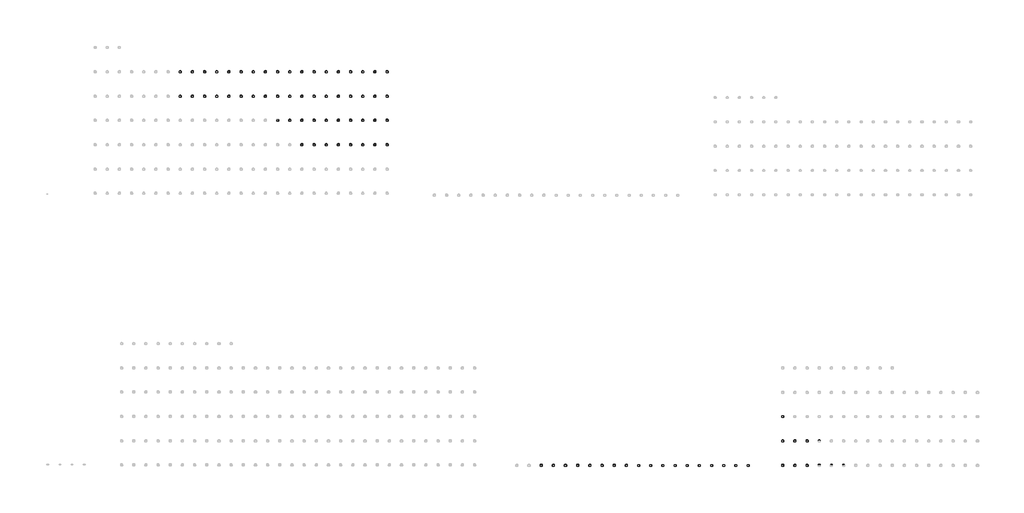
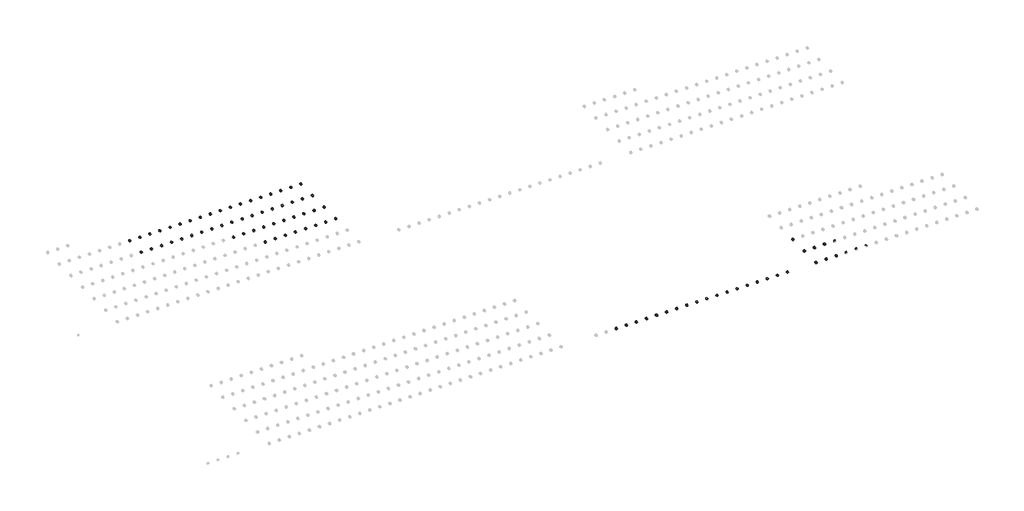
# One storey, part 7 of 18: 79 cable carrier fittings, 72 proxies.
"""IFC4 building model written with IfcOpenShell, lengths in millimetres."""

from ifc_helpers import new_model, si_unit, origin, place, context, project, spatial, transform, mapped, element, save
from components import electrical_fixtures_6e0d8de4, electrical_fixtures_7a809f7f, electrical_fixtures_fe53b4b8, electrical_fixtures_18ec57b5, electrical_fixtures_af1ea3f6, electrical_fixtures_23d46810, electrical_fixtures_6e65c7f1, cable_carrier_fitting_a64d4eba

model = new_model("IFC4")

# Units and contexts
model_context = context("Model", 3, world=origin())
ifc_project = project(units=[si_unit("LENGTHUNIT", "METRE", prefix="MILLI")], contexts=[model_context])

# Site, building, storey
site = spatial("IfcSite", under=ifc_project)
building = spatial("IfcBuilding", under=site)
storey = spatial("IfcBuildingStorey", under=building, Name="Этаж 01", Elevation=0.0)

# Proxies
placement = place(None, origin())
electrical_fixtures_shape = electrical_fixtures_6e0d8de4(model_context)
element("IfcBuildingElementProxy", 1, Name="IEK_Brite_Механизм подсветки, вывод кабеля : ВК_МВ10-БрГ", ObjectType="IEK_Brite_Механизм подсветки, вывод кабеля : ВК_МВ10-БрГ", at=placement, inside=storey, context=model_context, shape_type="MappedRepresentation", body=[
    mapped(electrical_fixtures_shape, transform((32051.7869327, -17805.0, 0.0), x_axis=(1.0, 0.0, 0.0), y_axis=(0.0, 1.0, 0.0), z_axis=(0.0, 0.0, 1.0))),
])
element("IfcBuildingElementProxy", 2, Name="IEK_Brite_Механизм подсветки, вывод кабеля : ВК_МВ10-БрЖ", ObjectType="IEK_Brite_Механизм подсветки, вывод кабеля : ВК_МВ10-БрЖ", at=placement, inside=storey, context=model_context, shape_type="MappedRepresentation", body=[
    mapped(electrical_fixtures_shape, transform((32451.7869327, -17805.0, 0.0), x_axis=(1.0, 0.0, 0.0), y_axis=(0.0, 1.0, 0.0), z_axis=(0.0, 0.0, 1.0))),
])
element("IfcBuildingElementProxy", 3, Name="IEK_Brite_Механизм подсветки, вывод кабеля : ВК_МВ10-БрКр", ObjectType="IEK_Brite_Механизм подсветки, вывод кабеля : ВК_МВ10-БрКр", at=placement, inside=storey, context=model_context, shape_type="MappedRepresentation", body=[
    mapped(electrical_fixtures_shape, transform((32851.7869327, -17805.0, 0.0), x_axis=(1.0, 0.0, 0.0), y_axis=(0.0, 1.0, 0.0), z_axis=(0.0, 0.0, 1.0))),
])
element("IfcBuildingElementProxy", 4, Name="IEK_Brite_Механизм подсветки, вывод кабеля : ВК_МВ10-БрМ", ObjectType="IEK_Brite_Механизм подсветки, вывод кабеля : ВК_МВ10-БрМ", at=placement, inside=storey, context=model_context, shape_type="MappedRepresentation", body=[
    mapped(electrical_fixtures_shape, transform((33251.7869327, -17805.0, 0.0), x_axis=(1.0, 0.0, 0.0), y_axis=(0.0, 1.0, 0.0), z_axis=(0.0, 0.0, 1.0))),
])
element("IfcBuildingElementProxy", 5, Name="IEK_Brite_Механизм подсветки, вывод кабеля : ВК_МВ10-БрС", ObjectType="IEK_Brite_Механизм подсветки, вывод кабеля : ВК_МВ10-БрС", at=placement, inside=storey, context=model_context, shape_type="MappedRepresentation", body=[
    mapped(electrical_fixtures_shape, transform((33651.7869327, -17805.0, 0.0), x_axis=(1.0, 0.0, 0.0), y_axis=(0.0, 1.0, 0.0), z_axis=(0.0, 0.0, 1.0))),
])
element("IfcBuildingElementProxy", 6, Name="IEK_Brite_Механизм подсветки, вывод кабеля : ВК_МВ10-БрТБ", ObjectType="IEK_Brite_Механизм подсветки, вывод кабеля : ВК_МВ10-БрТБ", at=placement, inside=storey, context=model_context, shape_type="MappedRepresentation", body=[
    mapped(electrical_fixtures_shape, transform((34051.7869327, -17805.0, 0.0), x_axis=(1.0, 0.0, 0.0), y_axis=(0.0, 1.0, 0.0), z_axis=(0.0, 0.0, 1.0))),
])
element("IfcBuildingElementProxy", 7, Name="IEK_Brite_Механизм подсветки, вывод кабеля : ВК_МВ10-БрЧ", ObjectType="IEK_Brite_Механизм подсветки, вывод кабеля : ВК_МВ10-БрЧ", at=placement, inside=storey, context=model_context, shape_type="MappedRepresentation", body=[
    mapped(electrical_fixtures_shape, transform((34451.7869327, -17805.0, 0.0), x_axis=(1.0, 0.0, 0.0), y_axis=(0.0, 1.0, 0.0), z_axis=(0.0, 0.0, 1.0))),
])
element("IfcBuildingElementProxy", 8, Name="IEK_Brite_Механизм подсветки, вывод кабеля : ВК_МВ10-БрШ", ObjectType="IEK_Brite_Механизм подсветки, вывод кабеля : ВК_МВ10-БрШ", at=placement, inside=storey, context=model_context, shape_type="MappedRepresentation", body=[
    mapped(electrical_fixtures_shape, transform((34851.7869327, -17805.0, 0.0), x_axis=(1.0, 0.0, 0.0), y_axis=(0.0, 1.0, 0.0), z_axis=(0.0, 0.0, 1.0))),
])
electrical_fixtures_2_shape = electrical_fixtures_7a809f7f(model_context)
element("IfcBuildingElementProxy", 9, Name="IEK_Brite_Механизм розетки 230В : 230 В_РС10-1-0-БрБ", ObjectType="IEK_Brite_Механизм розетки 230В : 230 В_РС10-1-0-БрБ", at=placement, inside=storey, context=model_context, shape_type="MappedRepresentation", body=[
    mapped(electrical_fixtures_2_shape, transform((39990.6847594, -17805.0, 0.0), x_axis=(1.0, 0.0, 0.0), y_axis=(0.0, 1.0, 0.0), z_axis=(0.0, 0.0, 1.0))),
])
element("IfcBuildingElementProxy", 10, Name="IEK_Brite_Механизм розетки 230В : 230 В_РС10-1-0-БрЧ", ObjectType="IEK_Brite_Механизм розетки 230В : 230 В_РС10-1-0-БрЧ", at=placement, inside=storey, context=model_context, shape_type="MappedRepresentation", body=[
    mapped(electrical_fixtures_2_shape, transform((40390.6847594, -17805.0, 0.0), x_axis=(1.0, 0.0, 0.0), y_axis=(0.0, 1.0, 0.0), z_axis=(0.0, 0.0, 1.0))),
])
element("IfcBuildingElementProxy", 11, Name="IEK_Brite_Механизм розетки 230В : 230 В_РС10-1-0-БрКр", ObjectType="IEK_Brite_Механизм розетки 230В : 230 В_РС10-1-0-БрКр", at=placement, inside=storey, context=model_context, shape_type="MappedRepresentation", body=[
    mapped(electrical_fixtures_2_shape, transform((40790.6847594, -17805.0, 0.0), x_axis=(1.0, 0.0, 0.0), y_axis=(0.0, 1.0, 0.0), z_axis=(0.0, 0.0, 1.0))),
])
element("IfcBuildingElementProxy", 12, Name="IEK_Brite_Механизм розетки 230В : 230 В_РС10-1-0-БрЖ", ObjectType="IEK_Brite_Механизм розетки 230В : 230 В_РС10-1-0-БрЖ", at=placement, inside=storey, context=model_context, shape_type="MappedRepresentation", body=[
    mapped(electrical_fixtures_2_shape, transform((41190.6847594, -17805.0, 0.0), x_axis=(1.0, 0.0, 0.0), y_axis=(0.0, 1.0, 0.0), z_axis=(0.0, 0.0, 1.0))),
])
element("IfcBuildingElementProxy", 13, Name="IEK_Brite_Механизм розетки 230В : 230 В_РС10-1-0-БрШ", ObjectType="IEK_Brite_Механизм розетки 230В : 230 В_РС10-1-0-БрШ", at=placement, inside=storey, context=model_context, shape_type="MappedRepresentation", body=[
    mapped(electrical_fixtures_2_shape, transform((41590.6847594, -17805.0, 0.0), x_axis=(1.0, 0.0, 0.0), y_axis=(0.0, 1.0, 0.0), z_axis=(0.0, 0.0, 1.0))),
])
element("IfcBuildingElementProxy", 14, Name="IEK_Brite_Механизм розетки 230В : 230 В_РС10-1-0-БрА", ObjectType="IEK_Brite_Механизм розетки 230В : 230 В_РС10-1-0-БрА", at=placement, inside=storey, context=model_context, shape_type="MappedRepresentation", body=[
    mapped(electrical_fixtures_2_shape, transform((41990.6847594, -17805.0, 0.0), x_axis=(1.0, 0.0, 0.0), y_axis=(0.0, 1.0, 0.0), z_axis=(0.0, 0.0, 1.0))),
])
element("IfcBuildingElementProxy", 15, Name="IEK_Brite_Механизм розетки 230В : 230 В шт._РСш10-2-БрА", ObjectType="IEK_Brite_Механизм розетки 230В : 230 В шт._РСш10-2-БрА", at=placement, inside=storey, context=model_context, shape_type="MappedRepresentation", body=[
    mapped(electrical_fixtures_2_shape, transform((39990.6847594, -17005.0, 0.0), x_axis=(1.0, 0.0, 0.0), y_axis=(0.0, 1.0, 0.0), z_axis=(0.0, 0.0, 1.0))),
])
element("IfcBuildingElementProxy", 16, Name="IEK_Brite_Механизм розетки 230В : 230 В шт._РСш10-2-БрС", ObjectType="IEK_Brite_Механизм розетки 230В : 230 В шт._РСш10-2-БрС", at=placement, inside=storey, context=model_context, shape_type="MappedRepresentation", body=[
    mapped(electrical_fixtures_2_shape, transform((40390.6847594, -17005.0, 0.0), x_axis=(1.0, 0.0, 0.0), y_axis=(0.0, 1.0, 0.0), z_axis=(0.0, 0.0, 1.0))),
])
element("IfcBuildingElementProxy", 17, Name="IEK_Brite_Механизм розетки 230В : 230 В шт._РСш10-2-БрГ", ObjectType="IEK_Brite_Механизм розетки 230В : 230 В шт._РСш10-2-БрГ", at=placement, inside=storey, context=model_context, shape_type="MappedRepresentation", body=[
    mapped(electrical_fixtures_2_shape, transform((40790.6847594, -17005.0, 0.0), x_axis=(1.0, 0.0, 0.0), y_axis=(0.0, 1.0, 0.0), z_axis=(0.0, 0.0, 1.0))),
])
element("IfcBuildingElementProxy", 18, Name="IEK_Brite_Механизм розетки 230В : 230 В шт._РСш10-2-БрМ", ObjectType="IEK_Brite_Механизм розетки 230В : 230 В шт._РСш10-2-БрМ", at=placement, inside=storey, context=model_context, shape_type="MappedRepresentation", body=[
    mapped(electrical_fixtures_2_shape, transform((41190.6847594, -17005.0, 0.0), x_axis=(1.0, 0.0, 0.0), y_axis=(0.0, 1.0, 0.0), z_axis=(0.0, 0.0, 1.0))),
])
electrical_fixtures_3_shape = electrical_fixtures_fe53b4b8(model_context)
element("IfcBuildingElementProxy", 19, Name="IEK_Brite_Механизм розетки 230В : 230 В PE+шт. USB A+A_РЮш10-2-БрБ", ObjectType="IEK_Brite_Механизм розетки 230В : 230 В PE+шт. USB A+A_РЮш10-2-БрБ", at=placement, inside=storey, context=model_context, shape_type="MappedRepresentation", body=[
    mapped(electrical_fixtures_3_shape, transform((39990.6847594, -16205.0, 0.0), x_axis=(1.0, 0.0, 0.0), y_axis=(0.0, 1.0, 0.0), z_axis=(0.0, 0.0, 1.0))),
])
electrical_fixtures_4_shape = electrical_fixtures_18ec57b5(model_context)
element("IfcBuildingElementProxy", 20, Name="IEK_Skandy_Механизм выключателя : В2_SK-V04Bl", ObjectType="IEK_Skandy_Механизм выключателя : В2_SK-V04Bl", at=placement, inside=storey, context=model_context, shape_type="MappedRepresentation", body=[
    mapped(electrical_fixtures_4_shape, transform((24188.7290788, -7260.0, 0.0), x_axis=(1.0, 0.0, 0.0), y_axis=(0.0, 1.0, 0.0), z_axis=(0.0, 0.0, 1.0))),
])
element("IfcBuildingElementProxy", 21, Name="IEK_Skandy_Механизм выключателя : В2_SK-V04G", ObjectType="IEK_Skandy_Механизм выключателя : В2_SK-V04G", at=placement, inside=storey, context=model_context, shape_type="MappedRepresentation", body=[
    mapped(electrical_fixtures_4_shape, transform((24588.7290788, -7260.0, 0.0), x_axis=(1.0, 0.0, 0.0), y_axis=(0.0, 1.0, 0.0), z_axis=(0.0, 0.0, 1.0))),
])
element("IfcBuildingElementProxy", 22, Name="IEK_Skandy_Механизм выключателя : В2_SK-V04Gr", ObjectType="IEK_Skandy_Механизм выключателя : В2_SK-V04Gr", at=placement, inside=storey, context=model_context, shape_type="MappedRepresentation", body=[
    mapped(electrical_fixtures_4_shape, transform((24988.7290788, -7260.0, 0.0), x_axis=(1.0, 0.0, 0.0), y_axis=(0.0, 1.0, 0.0), z_axis=(0.0, 0.0, 1.0))),
])
element("IfcBuildingElementProxy", 23, Name="IEK_Skandy_Механизм выключателя : В2_SK-V04M", ObjectType="IEK_Skandy_Механизм выключателя : В2_SK-V04M", at=placement, inside=storey, context=model_context, shape_type="MappedRepresentation", body=[
    mapped(electrical_fixtures_4_shape, transform((25388.7290788, -7260.0, 0.0), x_axis=(1.0, 0.0, 0.0), y_axis=(0.0, 1.0, 0.0), z_axis=(0.0, 0.0, 1.0))),
])
element("IfcBuildingElementProxy", 24, Name="IEK_Skandy_Механизм выключателя : В2_SK-V04N", ObjectType="IEK_Skandy_Механизм выключателя : В2_SK-V04N", at=placement, inside=storey, context=model_context, shape_type="MappedRepresentation", body=[
    mapped(electrical_fixtures_4_shape, transform((25788.7290788, -7260.0, 0.0), x_axis=(1.0, 0.0, 0.0), y_axis=(0.0, 1.0, 0.0), z_axis=(0.0, 0.0, 1.0))),
])
element("IfcBuildingElementProxy", 25, Name="IEK_Skandy_Механизм выключателя : В2_SK-V04S", ObjectType="IEK_Skandy_Механизм выключателя : В2_SK-V04S", at=placement, inside=storey, context=model_context, shape_type="MappedRepresentation", body=[
    mapped(electrical_fixtures_4_shape, transform((26188.7290788, -7260.0, 0.0), x_axis=(1.0, 0.0, 0.0), y_axis=(0.0, 1.0, 0.0), z_axis=(0.0, 0.0, 1.0))),
])
element("IfcBuildingElementProxy", 26, Name="IEK_Skandy_Механизм выключателя : В2_SK-V04Sa", ObjectType="IEK_Skandy_Механизм выключателя : В2_SK-V04Sa", at=placement, inside=storey, context=model_context, shape_type="MappedRepresentation", body=[
    mapped(electrical_fixtures_4_shape, transform((26588.7290788, -7260.0, 0.0), x_axis=(1.0, 0.0, 0.0), y_axis=(0.0, 1.0, 0.0), z_axis=(0.0, 0.0, 1.0))),
])
element("IfcBuildingElementProxy", 27, Name="IEK_Skandy_Механизм выключателя : В2_SK-V04Sh", ObjectType="IEK_Skandy_Механизм выключателя : В2_SK-V04Sh", at=placement, inside=storey, context=model_context, shape_type="MappedRepresentation", body=[
    mapped(electrical_fixtures_4_shape, transform((26988.7290788, -7260.0, 0.0), x_axis=(1.0, 0.0, 0.0), y_axis=(0.0, 1.0, 0.0), z_axis=(0.0, 0.0, 1.0))),
])
element("IfcBuildingElementProxy", 28, Name="IEK_Skandy_Механизм выключателя : ВПр2_SK-V05Gr", ObjectType="IEK_Skandy_Механизм выключателя : ВПр2_SK-V05Gr", at=placement, inside=storey, context=model_context, shape_type="MappedRepresentation", body=[
    mapped(electrical_fixtures_4_shape, transform((23788.7290788, -6460.0, 0.0), x_axis=(1.0, 0.0, 0.0), y_axis=(0.0, 1.0, 0.0), z_axis=(0.0, 0.0, 1.0))),
])
element("IfcBuildingElementProxy", 29, Name="IEK_Skandy_Механизм выключателя : ВПр2_SK-V05M", ObjectType="IEK_Skandy_Механизм выключателя : ВПр2_SK-V05M", at=placement, inside=storey, context=model_context, shape_type="MappedRepresentation", body=[
    mapped(electrical_fixtures_4_shape, transform((24188.7290788, -6460.0, 0.0), x_axis=(1.0, 0.0, 0.0), y_axis=(0.0, 1.0, 0.0), z_axis=(0.0, 0.0, 1.0))),
])
element("IfcBuildingElementProxy", 30, Name="IEK_Skandy_Механизм выключателя : ВПр2_SK-V05N", ObjectType="IEK_Skandy_Механизм выключателя : ВПр2_SK-V05N", at=placement, inside=storey, context=model_context, shape_type="MappedRepresentation", body=[
    mapped(electrical_fixtures_4_shape, transform((24588.7290788, -6460.0, 0.0), x_axis=(1.0, 0.0, 0.0), y_axis=(0.0, 1.0, 0.0), z_axis=(0.0, 0.0, 1.0))),
])
element("IfcBuildingElementProxy", 31, Name="IEK_Skandy_Механизм выключателя : ВПр2_SK-V05S", ObjectType="IEK_Skandy_Механизм выключателя : ВПр2_SK-V05S", at=placement, inside=storey, context=model_context, shape_type="MappedRepresentation", body=[
    mapped(electrical_fixtures_4_shape, transform((24988.7290788, -6460.0, 0.0), x_axis=(1.0, 0.0, 0.0), y_axis=(0.0, 1.0, 0.0), z_axis=(0.0, 0.0, 1.0))),
])
element("IfcBuildingElementProxy", 32, Name="IEK_Skandy_Механизм выключателя : ВПр2_SK-V05Sa", ObjectType="IEK_Skandy_Механизм выключателя : ВПр2_SK-V05Sa", at=placement, inside=storey, context=model_context, shape_type="MappedRepresentation", body=[
    mapped(electrical_fixtures_4_shape, transform((25388.7290788, -6460.0, 0.0), x_axis=(1.0, 0.0, 0.0), y_axis=(0.0, 1.0, 0.0), z_axis=(0.0, 0.0, 1.0))),
])
element("IfcBuildingElementProxy", 33, Name="IEK_Skandy_Механизм выключателя : ВПр2_SK-V05Sh", ObjectType="IEK_Skandy_Механизм выключателя : ВПр2_SK-V05Sh", at=placement, inside=storey, context=model_context, shape_type="MappedRepresentation", body=[
    mapped(electrical_fixtures_4_shape, transform((25788.7290788, -6460.0, 0.0), x_axis=(1.0, 0.0, 0.0), y_axis=(0.0, 1.0, 0.0), z_axis=(0.0, 0.0, 1.0))),
])
element("IfcBuildingElementProxy", 34, Name="IEK_Skandy_Механизм выключателя : ВПр2_SK-V05T", ObjectType="IEK_Skandy_Механизм выключателя : ВПр2_SK-V05T", at=placement, inside=storey, context=model_context, shape_type="MappedRepresentation", body=[
    mapped(electrical_fixtures_4_shape, transform((26188.7290788, -6460.0, 0.0), x_axis=(1.0, 0.0, 0.0), y_axis=(0.0, 1.0, 0.0), z_axis=(0.0, 0.0, 1.0))),
])
element("IfcBuildingElementProxy", 35, Name="IEK_Skandy_Механизм выключателя : ВПр2_SK-V05W", ObjectType="IEK_Skandy_Механизм выключателя : ВПр2_SK-V05W", at=placement, inside=storey, context=model_context, shape_type="MappedRepresentation", body=[
    mapped(electrical_fixtures_4_shape, transform((26588.7290788, -6460.0, 0.0), x_axis=(1.0, 0.0, 0.0), y_axis=(0.0, 1.0, 0.0), z_axis=(0.0, 0.0, 1.0))),
])
electrical_fixtures_5_shape = electrical_fixtures_af1ea3f6(model_context)
element("IfcBuildingElementProxy", 36, Name="IEK_Skandy_Механизм выключателя : ВПр2 И_SK-V10B", ObjectType="IEK_Skandy_Механизм выключателя : ВПр2 И_SK-V10B", at=placement, inside=storey, context=model_context, shape_type="MappedRepresentation", body=[
    mapped(electrical_fixtures_5_shape, transform((26988.7290788, -6460.0, 0.0), x_axis=(1.0, 0.0, 0.0), y_axis=(0.0, 1.0, 0.0), z_axis=(0.0, 0.0, 1.0))),
])
element("IfcBuildingElementProxy", 37, Name="IEK_Skandy_Механизм выключателя : ВПр2 И_SK-V10Sh", ObjectType="IEK_Skandy_Механизм выключателя : ВПр2 И_SK-V10Sh", at=placement, inside=storey, context=model_context, shape_type="MappedRepresentation", body=[
    mapped(electrical_fixtures_5_shape, transform((20188.7290788, -5660.0, 0.0), x_axis=(1.0, 0.0, 0.0), y_axis=(0.0, 1.0, 0.0), z_axis=(0.0, 0.0, 1.0))),
])
element("IfcBuildingElementProxy", 38, Name="IEK_Skandy_Механизм выключателя : ВПр2 И_SK-V10T", ObjectType="IEK_Skandy_Механизм выключателя : ВПр2 И_SK-V10T", at=placement, inside=storey, context=model_context, shape_type="MappedRepresentation", body=[
    mapped(electrical_fixtures_5_shape, transform((20588.7290788, -5660.0, 0.0), x_axis=(1.0, 0.0, 0.0), y_axis=(0.0, 1.0, 0.0), z_axis=(0.0, 0.0, 1.0))),
])
element("IfcBuildingElementProxy", 39, Name="IEK_Skandy_Механизм выключателя : ВПр2 И_SK-V10W", ObjectType="IEK_Skandy_Механизм выключателя : ВПр2 И_SK-V10W", at=placement, inside=storey, context=model_context, shape_type="MappedRepresentation", body=[
    mapped(electrical_fixtures_5_shape, transform((20988.7290788, -5660.0, 0.0), x_axis=(1.0, 0.0, 0.0), y_axis=(0.0, 1.0, 0.0), z_axis=(0.0, 0.0, 1.0))),
])
element("IfcBuildingElementProxy", 40, Name="IEK_Skandy_Механизм выключателя : В2 И_SK-V09B", ObjectType="IEK_Skandy_Механизм выключателя : В2 И_SK-V09B", at=placement, inside=storey, context=model_context, shape_type="MappedRepresentation", body=[
    mapped(electrical_fixtures_5_shape, transform((21388.7290788, -5660.0, 0.0), x_axis=(1.0, 0.0, 0.0), y_axis=(0.0, 1.0, 0.0), z_axis=(0.0, 0.0, 1.0))),
])
element("IfcBuildingElementProxy", 41, Name="IEK_Skandy_Механизм выключателя : В2 И_SK-V09Bl", ObjectType="IEK_Skandy_Механизм выключателя : В2 И_SK-V09Bl", at=placement, inside=storey, context=model_context, shape_type="MappedRepresentation", body=[
    mapped(electrical_fixtures_5_shape, transform((21788.7290788, -5660.0, 0.0), x_axis=(1.0, 0.0, 0.0), y_axis=(0.0, 1.0, 0.0), z_axis=(0.0, 0.0, 1.0))),
])
element("IfcBuildingElementProxy", 42, Name="IEK_Skandy_Механизм выключателя : В2 И_SK-V09G", ObjectType="IEK_Skandy_Механизм выключателя : В2 И_SK-V09G", at=placement, inside=storey, context=model_context, shape_type="MappedRepresentation", body=[
    mapped(electrical_fixtures_5_shape, transform((22188.7290788, -5660.0, 0.0), x_axis=(1.0, 0.0, 0.0), y_axis=(0.0, 1.0, 0.0), z_axis=(0.0, 0.0, 1.0))),
])
element("IfcBuildingElementProxy", 43, Name="IEK_Skandy_Механизм выключателя : В2 И_SK-V09Gr", ObjectType="IEK_Skandy_Механизм выключателя : В2 И_SK-V09Gr", at=placement, inside=storey, context=model_context, shape_type="MappedRepresentation", body=[
    mapped(electrical_fixtures_5_shape, transform((22588.7290788, -5660.0, 0.0), x_axis=(1.0, 0.0, 0.0), y_axis=(0.0, 1.0, 0.0), z_axis=(0.0, 0.0, 1.0))),
])
element("IfcBuildingElementProxy", 44, Name="IEK_Skandy_Механизм выключателя : В2 И_SK-V09M", ObjectType="IEK_Skandy_Механизм выключателя : В2 И_SK-V09M", at=placement, inside=storey, context=model_context, shape_type="MappedRepresentation", body=[
    mapped(electrical_fixtures_5_shape, transform((22988.7290788, -5660.0, 0.0), x_axis=(1.0, 0.0, 0.0), y_axis=(0.0, 1.0, 0.0), z_axis=(0.0, 0.0, 1.0))),
])
element("IfcBuildingElementProxy", 45, Name="IEK_Skandy_Механизм выключателя : В2 И_SK-V09N", ObjectType="IEK_Skandy_Механизм выключателя : В2 И_SK-V09N", at=placement, inside=storey, context=model_context, shape_type="MappedRepresentation", body=[
    mapped(electrical_fixtures_5_shape, transform((23388.7290788, -5660.0, 0.0), x_axis=(1.0, 0.0, 0.0), y_axis=(0.0, 1.0, 0.0), z_axis=(0.0, 0.0, 1.0))),
])
element("IfcBuildingElementProxy", 46, Name="IEK_Skandy_Механизм выключателя : В2 И_SK-V09S", ObjectType="IEK_Skandy_Механизм выключателя : В2 И_SK-V09S", at=placement, inside=storey, context=model_context, shape_type="MappedRepresentation", body=[
    mapped(electrical_fixtures_5_shape, transform((23788.7290788, -5660.0, 0.0), x_axis=(1.0, 0.0, 0.0), y_axis=(0.0, 1.0, 0.0), z_axis=(0.0, 0.0, 1.0))),
])
element("IfcBuildingElementProxy", 47, Name="IEK_Skandy_Механизм выключателя : В2 И_SK-V09Sa", ObjectType="IEK_Skandy_Механизм выключателя : В2 И_SK-V09Sa", at=placement, inside=storey, context=model_context, shape_type="MappedRepresentation", body=[
    mapped(electrical_fixtures_5_shape, transform((24188.7290788, -5660.0, 0.0), x_axis=(1.0, 0.0, 0.0), y_axis=(0.0, 1.0, 0.0), z_axis=(0.0, 0.0, 1.0))),
])
element("IfcBuildingElementProxy", 48, Name="IEK_Skandy_Механизм выключателя : В2 И_SK-V09Sh", ObjectType="IEK_Skandy_Механизм выключателя : В2 И_SK-V09Sh", at=placement, inside=storey, context=model_context, shape_type="MappedRepresentation", body=[
    mapped(electrical_fixtures_5_shape, transform((24588.7290788, -5660.0, 0.0), x_axis=(1.0, 0.0, 0.0), y_axis=(0.0, 1.0, 0.0), z_axis=(0.0, 0.0, 1.0))),
])
element("IfcBuildingElementProxy", 49, Name="IEK_Skandy_Механизм выключателя : В2 И_SK-V09T", ObjectType="IEK_Skandy_Механизм выключателя : В2 И_SK-V09T", at=placement, inside=storey, context=model_context, shape_type="MappedRepresentation", body=[
    mapped(electrical_fixtures_5_shape, transform((24988.7290788, -5660.0, 0.0), x_axis=(1.0, 0.0, 0.0), y_axis=(0.0, 1.0, 0.0), z_axis=(0.0, 0.0, 1.0))),
])
element("IfcBuildingElementProxy", 50, Name="IEK_Skandy_Механизм выключателя : В2 И_SK-V09W", ObjectType="IEK_Skandy_Механизм выключателя : В2 И_SK-V09W", at=placement, inside=storey, context=model_context, shape_type="MappedRepresentation", body=[
    mapped(electrical_fixtures_5_shape, transform((25388.7290788, -5660.0, 0.0), x_axis=(1.0, 0.0, 0.0), y_axis=(0.0, 1.0, 0.0), z_axis=(0.0, 0.0, 1.0))),
])
electrical_fixtures_6_shape = electrical_fixtures_23d46810(model_context)
element("IfcBuildingElementProxy", 51, Name="IEK_Skandy_Механизм выключателя : В3_SK-V11B", ObjectType="IEK_Skandy_Механизм выключателя : В3_SK-V11B", at=placement, inside=storey, context=model_context, shape_type="MappedRepresentation", body=[
    mapped(electrical_fixtures_6_shape, transform((25788.7290788, -5660.0, 0.0), x_axis=(1.0, 0.0, 0.0), y_axis=(0.0, 1.0, 0.0), z_axis=(0.0, 0.0, 1.0))),
])
element("IfcBuildingElementProxy", 52, Name="IEK_Skandy_Механизм выключателя : В3_SK-V11Bl", ObjectType="IEK_Skandy_Механизм выключателя : В3_SK-V11Bl", at=placement, inside=storey, context=model_context, shape_type="MappedRepresentation", body=[
    mapped(electrical_fixtures_6_shape, transform((26188.7290788, -5660.0, 0.0), x_axis=(1.0, 0.0, 0.0), y_axis=(0.0, 1.0, 0.0), z_axis=(0.0, 0.0, 1.0))),
])
element("IfcBuildingElementProxy", 53, Name="IEK_Skandy_Механизм выключателя : В3_SK-V11G", ObjectType="IEK_Skandy_Механизм выключателя : В3_SK-V11G", at=placement, inside=storey, context=model_context, shape_type="MappedRepresentation", body=[
    mapped(electrical_fixtures_6_shape, transform((26588.7290788, -5660.0, 0.0), x_axis=(1.0, 0.0, 0.0), y_axis=(0.0, 1.0, 0.0), z_axis=(0.0, 0.0, 1.0))),
])
element("IfcBuildingElementProxy", 54, Name="IEK_Skandy_Механизм выключателя : В3_SK-V11Gr", ObjectType="IEK_Skandy_Механизм выключателя : В3_SK-V11Gr", at=placement, inside=storey, context=model_context, shape_type="MappedRepresentation", body=[
    mapped(electrical_fixtures_6_shape, transform((26988.7290788, -5660.0, 0.0), x_axis=(1.0, 0.0, 0.0), y_axis=(0.0, 1.0, 0.0), z_axis=(0.0, 0.0, 1.0))),
])
element("IfcBuildingElementProxy", 55, Name="IEK_Skandy_Механизм выключателя : ВК2_SK-V12B", ObjectType="IEK_Skandy_Механизм выключателя : ВК2_SK-V12B", at=placement, inside=storey, context=model_context, shape_type="MappedRepresentation", body=[
    mapped(electrical_fixtures_4_shape, transform((20188.7290788, -4860.0, 0.0), x_axis=(1.0, 0.0, 0.0), y_axis=(0.0, 1.0, 0.0), z_axis=(0.0, 0.0, 1.0))),
])
element("IfcBuildingElementProxy", 56, Name="IEK_Skandy_Механизм выключателя : ВК2_SK-V12Bl", ObjectType="IEK_Skandy_Механизм выключателя : ВК2_SK-V12Bl", at=placement, inside=storey, context=model_context, shape_type="MappedRepresentation", body=[
    mapped(electrical_fixtures_4_shape, transform((20588.7290788, -4860.0, 0.0), x_axis=(1.0, 0.0, 0.0), y_axis=(0.0, 1.0, 0.0), z_axis=(0.0, 0.0, 1.0))),
])
element("IfcBuildingElementProxy", 57, Name="IEK_Skandy_Механизм выключателя : ВК2_SK-V12G", ObjectType="IEK_Skandy_Механизм выключателя : ВК2_SK-V12G", at=placement, inside=storey, context=model_context, shape_type="MappedRepresentation", body=[
    mapped(electrical_fixtures_4_shape, transform((20988.7290788, -4860.0, 0.0), x_axis=(1.0, 0.0, 0.0), y_axis=(0.0, 1.0, 0.0), z_axis=(0.0, 0.0, 1.0))),
])
element("IfcBuildingElementProxy", 58, Name="IEK_Skandy_Механизм выключателя : ВК2_SK-V12Gr", ObjectType="IEK_Skandy_Механизм выключателя : ВК2_SK-V12Gr", at=placement, inside=storey, context=model_context, shape_type="MappedRepresentation", body=[
    mapped(electrical_fixtures_4_shape, transform((21388.7290788, -4860.0, 0.0), x_axis=(1.0, 0.0, 0.0), y_axis=(0.0, 1.0, 0.0), z_axis=(0.0, 0.0, 1.0))),
])
element("IfcBuildingElementProxy", 59, Name="IEK_Skandy_Механизм выключателя : ВК2_SK-V12M", ObjectType="IEK_Skandy_Механизм выключателя : ВК2_SK-V12M", at=placement, inside=storey, context=model_context, shape_type="MappedRepresentation", body=[
    mapped(electrical_fixtures_4_shape, transform((21788.7290788, -4860.0, 0.0), x_axis=(1.0, 0.0, 0.0), y_axis=(0.0, 1.0, 0.0), z_axis=(0.0, 0.0, 1.0))),
])
element("IfcBuildingElementProxy", 60, Name="IEK_Skandy_Механизм выключателя : ВК2_SK-V12N", ObjectType="IEK_Skandy_Механизм выключателя : ВК2_SK-V12N", at=placement, inside=storey, context=model_context, shape_type="MappedRepresentation", body=[
    mapped(electrical_fixtures_4_shape, transform((22188.7290788, -4860.0, 0.0), x_axis=(1.0, 0.0, 0.0), y_axis=(0.0, 1.0, 0.0), z_axis=(0.0, 0.0, 1.0))),
])
element("IfcBuildingElementProxy", 61, Name="IEK_Skandy_Механизм выключателя : ВК2_SK-V12S", ObjectType="IEK_Skandy_Механизм выключателя : ВК2_SK-V12S", at=placement, inside=storey, context=model_context, shape_type="MappedRepresentation", body=[
    mapped(electrical_fixtures_4_shape, transform((22588.7290788, -4860.0, 0.0), x_axis=(1.0, 0.0, 0.0), y_axis=(0.0, 1.0, 0.0), z_axis=(0.0, 0.0, 1.0))),
])
element("IfcBuildingElementProxy", 62, Name="IEK_Skandy_Механизм выключателя : ВК2_SK-V12Sa", ObjectType="IEK_Skandy_Механизм выключателя : ВК2_SK-V12Sa", at=placement, inside=storey, context=model_context, shape_type="MappedRepresentation", body=[
    mapped(electrical_fixtures_4_shape, transform((22988.7290788, -4860.0, 0.0), x_axis=(1.0, 0.0, 0.0), y_axis=(0.0, 1.0, 0.0), z_axis=(0.0, 0.0, 1.0))),
])
element("IfcBuildingElementProxy", 63, Name="IEK_Skandy_Механизм выключателя : ВК2_SK-V12Sh", ObjectType="IEK_Skandy_Механизм выключателя : ВК2_SK-V12Sh", at=placement, inside=storey, context=model_context, shape_type="MappedRepresentation", body=[
    mapped(electrical_fixtures_4_shape, transform((23388.7290788, -4860.0, 0.0), x_axis=(1.0, 0.0, 0.0), y_axis=(0.0, 1.0, 0.0), z_axis=(0.0, 0.0, 1.0))),
])
element("IfcBuildingElementProxy", 64, Name="IEK_Skandy_Механизм выключателя : ВК2_SK-V12T", ObjectType="IEK_Skandy_Механизм выключателя : ВК2_SK-V12T", at=placement, inside=storey, context=model_context, shape_type="MappedRepresentation", body=[
    mapped(electrical_fixtures_4_shape, transform((23788.7290788, -4860.0, 0.0), x_axis=(1.0, 0.0, 0.0), y_axis=(0.0, 1.0, 0.0), z_axis=(0.0, 0.0, 1.0))),
])
element("IfcBuildingElementProxy", 65, Name="IEK_Skandy_Механизм выключателя : ВК2_SK-V12W", ObjectType="IEK_Skandy_Механизм выключателя : ВК2_SK-V12W", at=placement, inside=storey, context=model_context, shape_type="MappedRepresentation", body=[
    mapped(electrical_fixtures_4_shape, transform((24188.7290788, -4860.0, 0.0), x_axis=(1.0, 0.0, 0.0), y_axis=(0.0, 1.0, 0.0), z_axis=(0.0, 0.0, 1.0))),
])
electrical_fixtures_7_shape = electrical_fixtures_6e65c7f1(model_context)
element("IfcBuildingElementProxy", 66, Name="IEK_Skandy_Механизм выключателя : ДД_SK-S01B", ObjectType="IEK_Skandy_Механизм выключателя : ДД_SK-S01B", at=placement, inside=storey, context=model_context, shape_type="MappedRepresentation", body=[
    mapped(electrical_fixtures_7_shape, transform((24588.7290788, -4860.0, 0.0), x_axis=(1.0, 0.0, 0.0), y_axis=(0.0, 1.0, 0.0), z_axis=(0.0, 0.0, 1.0))),
])
element("IfcBuildingElementProxy", 67, Name="IEK_Skandy_Механизм выключателя : ДД_SK-S01Bl", ObjectType="IEK_Skandy_Механизм выключателя : ДД_SK-S01Bl", at=placement, inside=storey, context=model_context, shape_type="MappedRepresentation", body=[
    mapped(electrical_fixtures_7_shape, transform((24988.7290788, -4860.0, 0.0), x_axis=(1.0, 0.0, 0.0), y_axis=(0.0, 1.0, 0.0), z_axis=(0.0, 0.0, 1.0))),
])
element("IfcBuildingElementProxy", 68, Name="IEK_Skandy_Механизм выключателя : ДД_SK-S01G", ObjectType="IEK_Skandy_Механизм выключателя : ДД_SK-S01G", at=placement, inside=storey, context=model_context, shape_type="MappedRepresentation", body=[
    mapped(electrical_fixtures_7_shape, transform((25388.7290788, -4860.0, 0.0), x_axis=(1.0, 0.0, 0.0), y_axis=(0.0, 1.0, 0.0), z_axis=(0.0, 0.0, 1.0))),
])
element("IfcBuildingElementProxy", 69, Name="IEK_Skandy_Механизм выключателя : ДД_SK-S01Gr", ObjectType="IEK_Skandy_Механизм выключателя : ДД_SK-S01Gr", at=placement, inside=storey, context=model_context, shape_type="MappedRepresentation", body=[
    mapped(electrical_fixtures_7_shape, transform((25788.7290788, -4860.0, 0.0), x_axis=(1.0, 0.0, 0.0), y_axis=(0.0, 1.0, 0.0), z_axis=(0.0, 0.0, 1.0))),
])
element("IfcBuildingElementProxy", 70, Name="IEK_Skandy_Механизм выключателя : ДД_SK-S01M", ObjectType="IEK_Skandy_Механизм выключателя : ДД_SK-S01M", at=placement, inside=storey, context=model_context, shape_type="MappedRepresentation", body=[
    mapped(electrical_fixtures_7_shape, transform((26188.7290788, -4860.0, 0.0), x_axis=(1.0, 0.0, 0.0), y_axis=(0.0, 1.0, 0.0), z_axis=(0.0, 0.0, 1.0))),
])
element("IfcBuildingElementProxy", 71, Name="IEK_Skandy_Механизм выключателя : ДД_SK-S01S", ObjectType="IEK_Skandy_Механизм выключателя : ДД_SK-S01S", at=placement, inside=storey, context=model_context, shape_type="MappedRepresentation", body=[
    mapped(electrical_fixtures_7_shape, transform((26588.7290788, -4860.0, 0.0), x_axis=(1.0, 0.0, 0.0), y_axis=(0.0, 1.0, 0.0), z_axis=(0.0, 0.0, 1.0))),
])
element("IfcBuildingElementProxy", 72, Name="IEK_Skandy_Механизм выключателя : ДД_SK-S01Sa", ObjectType="IEK_Skandy_Механизм выключателя : ДД_SK-S01Sa", at=placement, inside=storey, context=model_context, shape_type="MappedRepresentation", body=[
    mapped(electrical_fixtures_7_shape, transform((26988.7290788, -4860.0, 0.0), x_axis=(1.0, 0.0, 0.0), y_axis=(0.0, 1.0, 0.0), z_axis=(0.0, 0.0, 1.0))),
])

# Cable carrier fittings
cable_carrier_fitting_shape = cable_carrier_fitting_a64d4eba(model_context)
element("IfcCableCarrierFitting", 73, ObjectType="IEK_Коробка монтажная : стены_полые", at=placement, inside=storey, context=model_context, shape_type="MappedRepresentation", body=[
    mapped(cable_carrier_fitting_shape, transform((32051.7869327, -17805.0, 0.0), x_axis=(1.0, 0.0, 0.0), y_axis=(0.0, 1.0, 0.0), z_axis=(0.0, 0.0, 1.0))),
])
element("IfcCableCarrierFitting", 74, ObjectType="IEK_Коробка монтажная : стены_полые", at=placement, inside=storey, context=model_context, shape_type="MappedRepresentation", body=[
    mapped(cable_carrier_fitting_shape, transform((32451.7869327, -17805.0, 0.0), x_axis=(1.0, 0.0, 0.0), y_axis=(0.0, 1.0, 0.0), z_axis=(0.0, 0.0, 1.0))),
])
element("IfcCableCarrierFitting", 75, ObjectType="IEK_Коробка монтажная : стены_полые", at=placement, inside=storey, context=model_context, shape_type="MappedRepresentation", body=[
    mapped(cable_carrier_fitting_shape, transform((32851.7869327, -17805.0, 0.0), x_axis=(1.0, 0.0, 0.0), y_axis=(0.0, 1.0, 0.0), z_axis=(0.0, 0.0, 1.0))),
])
element("IfcCableCarrierFitting", 76, ObjectType="IEK_Коробка монтажная : стены_полые", at=placement, inside=storey, context=model_context, shape_type="MappedRepresentation", body=[
    mapped(cable_carrier_fitting_shape, transform((33251.7869327, -17805.0, 0.0), x_axis=(1.0, 0.0, 0.0), y_axis=(0.0, 1.0, 0.0), z_axis=(0.0, 0.0, 1.0))),
])
element("IfcCableCarrierFitting", 77, ObjectType="IEK_Коробка монтажная : стены_полые", at=placement, inside=storey, context=model_context, shape_type="MappedRepresentation", body=[
    mapped(cable_carrier_fitting_shape, transform((33651.7869327, -17805.0, 0.0), x_axis=(1.0, 0.0, 0.0), y_axis=(0.0, 1.0, 0.0), z_axis=(0.0, 0.0, 1.0))),
])
element("IfcCableCarrierFitting", 78, ObjectType="IEK_Коробка монтажная : стены_полые", at=placement, inside=storey, context=model_context, shape_type="MappedRepresentation", body=[
    mapped(cable_carrier_fitting_shape, transform((34051.7869327, -17805.0, 0.0), x_axis=(1.0, 0.0, 0.0), y_axis=(0.0, 1.0, 0.0), z_axis=(0.0, 0.0, 1.0))),
])
element("IfcCableCarrierFitting", 79, ObjectType="IEK_Коробка монтажная : стены_полые", at=placement, inside=storey, context=model_context, shape_type="MappedRepresentation", body=[
    mapped(cable_carrier_fitting_shape, transform((34451.7869327, -17805.0, 0.0), x_axis=(1.0, 0.0, 0.0), y_axis=(0.0, 1.0, 0.0), z_axis=(0.0, 0.0, 1.0))),
])
element("IfcCableCarrierFitting", 80, ObjectType="IEK_Коробка монтажная : стены_полые", at=placement, inside=storey, context=model_context, shape_type="MappedRepresentation", body=[
    mapped(cable_carrier_fitting_shape, transform((34851.7869327, -17805.0, 0.0), x_axis=(1.0, 0.0, 0.0), y_axis=(0.0, 1.0, 0.0), z_axis=(0.0, 0.0, 1.0))),
])
element("IfcCableCarrierFitting", 81, ObjectType="IEK_Коробка монтажная : стены_полые", at=placement, inside=storey, context=model_context, shape_type="MappedRepresentation", body=[
    mapped(cable_carrier_fitting_shape, transform((35251.7869327, -17805.0, 0.0), x_axis=(1.0, 0.0, 0.0), y_axis=(0.0, 1.0, 0.0), z_axis=(0.0, 0.0, 1.0))),
])
element("IfcCableCarrierFitting", 82, ObjectType="IEK_Коробка монтажная : стены_полые", at=placement, inside=storey, context=model_context, shape_type="MappedRepresentation", body=[
    mapped(cable_carrier_fitting_shape, transform((35651.7869327, -17805.0, 0.0), x_axis=(1.0, 0.0, 0.0), y_axis=(0.0, 1.0, 0.0), z_axis=(0.0, 0.0, 1.0))),
])
element("IfcCableCarrierFitting", 83, ObjectType="IEK_Коробка монтажная : стены_полые", at=placement, inside=storey, context=model_context, shape_type="MappedRepresentation", body=[
    mapped(cable_carrier_fitting_shape, transform((36051.7869327, -17805.0, 0.0), x_axis=(1.0, 0.0, 0.0), y_axis=(0.0, 1.0, 0.0), z_axis=(0.0, 0.0, 1.0))),
])
element("IfcCableCarrierFitting", 84, ObjectType="IEK_Коробка монтажная : стены_полые", at=placement, inside=storey, context=model_context, shape_type="MappedRepresentation", body=[
    mapped(cable_carrier_fitting_shape, transform((36451.7869327, -17805.0, 0.0), x_axis=(1.0, 0.0, 0.0), y_axis=(0.0, 1.0, 0.0), z_axis=(0.0, 0.0, 1.0))),
])
element("IfcCableCarrierFitting", 85, ObjectType="IEK_Коробка монтажная : стены_полые", at=placement, inside=storey, context=model_context, shape_type="MappedRepresentation", body=[
    mapped(cable_carrier_fitting_shape, transform((36851.7869327, -17805.0, 0.0), x_axis=(1.0, 0.0, 0.0), y_axis=(0.0, 1.0, 0.0), z_axis=(0.0, 0.0, 1.0))),
])
element("IfcCableCarrierFitting", 86, ObjectType="IEK_Коробка монтажная : стены_полые", at=placement, inside=storey, context=model_context, shape_type="MappedRepresentation", body=[
    mapped(cable_carrier_fitting_shape, transform((37251.7869327, -17805.0, 0.0), x_axis=(1.0, 0.0, 0.0), y_axis=(0.0, 1.0, 0.0), z_axis=(0.0, 0.0, 1.0))),
])
element("IfcCableCarrierFitting", 87, ObjectType="IEK_Коробка монтажная : стены_полые", at=placement, inside=storey, context=model_context, shape_type="MappedRepresentation", body=[
    mapped(cable_carrier_fitting_shape, transform((37651.7869327, -17805.0, 0.0), x_axis=(1.0, 0.0, 0.0), y_axis=(0.0, 1.0, 0.0), z_axis=(0.0, 0.0, 1.0))),
])
element("IfcCableCarrierFitting", 88, ObjectType="IEK_Коробка монтажная : стены_полые", at=placement, inside=storey, context=model_context, shape_type="MappedRepresentation", body=[
    mapped(cable_carrier_fitting_shape, transform((38051.7869327, -17805.0, 0.0), x_axis=(1.0, 0.0, 0.0), y_axis=(0.0, 1.0, 0.0), z_axis=(0.0, 0.0, 1.0))),
])
element("IfcCableCarrierFitting", 89, ObjectType="IEK_Коробка монтажная : стены_полые", at=placement, inside=storey, context=model_context, shape_type="MappedRepresentation", body=[
    mapped(cable_carrier_fitting_shape, transform((38451.7869327, -17805.0, 0.0), x_axis=(1.0, 0.0, 0.0), y_axis=(0.0, 1.0, 0.0), z_axis=(0.0, 0.0, 1.0))),
])
element("IfcCableCarrierFitting", 90, ObjectType="IEK_Коробка монтажная : стены_полые", at=placement, inside=storey, context=model_context, shape_type="MappedRepresentation", body=[
    mapped(cable_carrier_fitting_shape, transform((38851.7869327, -17805.0, 0.0), x_axis=(1.0, 0.0, 0.0), y_axis=(0.0, 1.0, 0.0), z_axis=(0.0, 0.0, 1.0))),
])
element("IfcCableCarrierFitting", 91, ObjectType="IEK_Коробка монтажная : стены_полые", at=placement, inside=storey, context=model_context, shape_type="MappedRepresentation", body=[
    mapped(cable_carrier_fitting_shape, transform((39990.6847594, -17805.0, 0.0), x_axis=(1.0, 0.0, 0.0), y_axis=(0.0, 1.0, 0.0), z_axis=(0.0, 0.0, 1.0))),
])
element("IfcCableCarrierFitting", 92, ObjectType="IEK_Коробка монтажная : стены_полые", at=placement, inside=storey, context=model_context, shape_type="MappedRepresentation", body=[
    mapped(cable_carrier_fitting_shape, transform((40390.6847594, -17805.0, 0.0), x_axis=(1.0, 0.0, 0.0), y_axis=(0.0, 1.0, 0.0), z_axis=(0.0, 0.0, 1.0))),
])
element("IfcCableCarrierFitting", 93, ObjectType="IEK_Коробка монтажная : стены_полые", at=placement, inside=storey, context=model_context, shape_type="MappedRepresentation", body=[
    mapped(cable_carrier_fitting_shape, transform((40790.6847594, -17805.0, 0.0), x_axis=(1.0, 0.0, 0.0), y_axis=(0.0, 1.0, 0.0), z_axis=(0.0, 0.0, 1.0))),
])
element("IfcCableCarrierFitting", 94, ObjectType="IEK_Коробка монтажная : стены_полые", at=placement, inside=storey, context=model_context, shape_type="MappedRepresentation", body=[
    mapped(cable_carrier_fitting_shape, transform((39990.6847594, -17005.0, 0.0), x_axis=(1.0, 0.0, 0.0), y_axis=(0.0, 1.0, 0.0), z_axis=(0.0, 0.0, 1.0))),
])
element("IfcCableCarrierFitting", 95, ObjectType="IEK_Коробка монтажная : стены_полые", at=placement, inside=storey, context=model_context, shape_type="MappedRepresentation", body=[
    mapped(cable_carrier_fitting_shape, transform((40390.6847594, -17005.0, 0.0), x_axis=(1.0, 0.0, 0.0), y_axis=(0.0, 1.0, 0.0), z_axis=(0.0, 0.0, 1.0))),
])
element("IfcCableCarrierFitting", 96, ObjectType="IEK_Коробка монтажная : стены_полые", at=placement, inside=storey, context=model_context, shape_type="MappedRepresentation", body=[
    mapped(cable_carrier_fitting_shape, transform((40790.6847594, -17005.0, 0.0), x_axis=(1.0, 0.0, 0.0), y_axis=(0.0, 1.0, 0.0), z_axis=(0.0, 0.0, 1.0))),
])
element("IfcCableCarrierFitting", 97, ObjectType="IEK_Коробка монтажная : стены_полые", at=placement, inside=storey, context=model_context, shape_type="MappedRepresentation", body=[
    mapped(cable_carrier_fitting_shape, transform((39990.6847594, -16205.0, 0.0), x_axis=(1.0, 0.0, 0.0), y_axis=(0.0, 1.0, 0.0), z_axis=(0.0, 0.0, 1.0))),
])
element("IfcCableCarrierFitting", 98, ObjectType="IEK_Коробка монтажная : стены_полые", at=placement, inside=storey, context=model_context, shape_type="MappedRepresentation", body=[
    mapped(cable_carrier_fitting_shape, transform((24188.7290788, -7260.0, 0.0), x_axis=(1.0, 0.0, 0.0), y_axis=(0.0, 1.0, 0.0), z_axis=(0.0, 0.0, 1.0))),
])
element("IfcCableCarrierFitting", 99, ObjectType="IEK_Коробка монтажная : стены_полые", at=placement, inside=storey, context=model_context, shape_type="MappedRepresentation", body=[
    mapped(cable_carrier_fitting_shape, transform((24588.7290788, -7260.0, 0.0), x_axis=(1.0, 0.0, 0.0), y_axis=(0.0, 1.0, 0.0), z_axis=(0.0, 0.0, 1.0))),
])
element("IfcCableCarrierFitting", 100, ObjectType="IEK_Коробка монтажная : стены_полые", at=placement, inside=storey, context=model_context, shape_type="MappedRepresentation", body=[
    mapped(cable_carrier_fitting_shape, transform((24988.7290788, -7260.0, 0.0), x_axis=(1.0, 0.0, 0.0), y_axis=(0.0, 1.0, 0.0), z_axis=(0.0, 0.0, 1.0))),
])
element("IfcCableCarrierFitting", 101, ObjectType="IEK_Коробка монтажная : стены_полые", at=placement, inside=storey, context=model_context, shape_type="MappedRepresentation", body=[
    mapped(cable_carrier_fitting_shape, transform((25388.7290788, -7260.0, 0.0), x_axis=(1.0, 0.0, 0.0), y_axis=(0.0, 1.0, 0.0), z_axis=(0.0, 0.0, 1.0))),
])
element("IfcCableCarrierFitting", 102, ObjectType="IEK_Коробка монтажная : стены_полые", at=placement, inside=storey, context=model_context, shape_type="MappedRepresentation", body=[
    mapped(cable_carrier_fitting_shape, transform((25788.7290788, -7260.0, 0.0), x_axis=(1.0, 0.0, 0.0), y_axis=(0.0, 1.0, 0.0), z_axis=(0.0, 0.0, 1.0))),
])
element("IfcCableCarrierFitting", 103, ObjectType="IEK_Коробка монтажная : стены_полые", at=placement, inside=storey, context=model_context, shape_type="MappedRepresentation", body=[
    mapped(cable_carrier_fitting_shape, transform((26188.7290788, -7260.0, 0.0), x_axis=(1.0, 0.0, 0.0), y_axis=(0.0, 1.0, 0.0), z_axis=(0.0, 0.0, 1.0))),
])
element("IfcCableCarrierFitting", 104, ObjectType="IEK_Коробка монтажная : стены_полые", at=placement, inside=storey, context=model_context, shape_type="MappedRepresentation", body=[
    mapped(cable_carrier_fitting_shape, transform((26588.7290788, -7260.0, 0.0), x_axis=(1.0, 0.0, 0.0), y_axis=(0.0, 1.0, 0.0), z_axis=(0.0, 0.0, 1.0))),
])
element("IfcCableCarrierFitting", 105, ObjectType="IEK_Коробка монтажная : стены_полые", at=placement, inside=storey, context=model_context, shape_type="MappedRepresentation", body=[
    mapped(cable_carrier_fitting_shape, transform((26988.7290788, -7260.0, 0.0), x_axis=(1.0, 0.0, 0.0), y_axis=(0.0, 1.0, 0.0), z_axis=(0.0, 0.0, 1.0))),
])
element("IfcCableCarrierFitting", 106, ObjectType="IEK_Коробка монтажная : стены_полые", at=placement, inside=storey, context=model_context, shape_type="MappedRepresentation", body=[
    mapped(cable_carrier_fitting_shape, transform((23388.7290788, -6460.0, 0.0), x_axis=(1.0, 0.0, 0.0), y_axis=(0.0, 1.0, 0.0), z_axis=(0.0, 0.0, 1.0))),
])
element("IfcCableCarrierFitting", 107, ObjectType="IEK_Коробка монтажная : стены_полые", at=placement, inside=storey, context=model_context, shape_type="MappedRepresentation", body=[
    mapped(cable_carrier_fitting_shape, transform((23788.7290788, -6460.0, 0.0), x_axis=(1.0, 0.0, 0.0), y_axis=(0.0, 1.0, 0.0), z_axis=(0.0, 0.0, 1.0))),
])
element("IfcCableCarrierFitting", 108, ObjectType="IEK_Коробка монтажная : стены_полые", at=placement, inside=storey, context=model_context, shape_type="MappedRepresentation", body=[
    mapped(cable_carrier_fitting_shape, transform((24188.7290788, -6460.0, 0.0), x_axis=(1.0, 0.0, 0.0), y_axis=(0.0, 1.0, 0.0), z_axis=(0.0, 0.0, 1.0))),
])
element("IfcCableCarrierFitting", 109, ObjectType="IEK_Коробка монтажная : стены_полые", at=placement, inside=storey, context=model_context, shape_type="MappedRepresentation", body=[
    mapped(cable_carrier_fitting_shape, transform((24588.7290788, -6460.0, 0.0), x_axis=(1.0, 0.0, 0.0), y_axis=(0.0, 1.0, 0.0), z_axis=(0.0, 0.0, 1.0))),
])
element("IfcCableCarrierFitting", 110, ObjectType="IEK_Коробка монтажная : стены_полые", at=placement, inside=storey, context=model_context, shape_type="MappedRepresentation", body=[
    mapped(cable_carrier_fitting_shape, transform((24988.7290788, -6460.0, 0.0), x_axis=(1.0, 0.0, 0.0), y_axis=(0.0, 1.0, 0.0), z_axis=(0.0, 0.0, 1.0))),
])
element("IfcCableCarrierFitting", 111, ObjectType="IEK_Коробка монтажная : стены_полые", at=placement, inside=storey, context=model_context, shape_type="MappedRepresentation", body=[
    mapped(cable_carrier_fitting_shape, transform((25388.7290788, -6460.0, 0.0), x_axis=(1.0, 0.0, 0.0), y_axis=(0.0, 1.0, 0.0), z_axis=(0.0, 0.0, 1.0))),
])
element("IfcCableCarrierFitting", 112, ObjectType="IEK_Коробка монтажная : стены_полые", at=placement, inside=storey, context=model_context, shape_type="MappedRepresentation", body=[
    mapped(cable_carrier_fitting_shape, transform((25788.7290788, -6460.0, 0.0), x_axis=(1.0, 0.0, 0.0), y_axis=(0.0, 1.0, 0.0), z_axis=(0.0, 0.0, 1.0))),
])
element("IfcCableCarrierFitting", 113, ObjectType="IEK_Коробка монтажная : стены_полые", at=placement, inside=storey, context=model_context, shape_type="MappedRepresentation", body=[
    mapped(cable_carrier_fitting_shape, transform((26188.7290788, -6460.0, 0.0), x_axis=(1.0, 0.0, 0.0), y_axis=(0.0, 1.0, 0.0), z_axis=(0.0, 0.0, 1.0))),
])
element("IfcCableCarrierFitting", 114, ObjectType="IEK_Коробка монтажная : стены_полые", at=placement, inside=storey, context=model_context, shape_type="MappedRepresentation", body=[
    mapped(cable_carrier_fitting_shape, transform((26588.7290788, -6460.0, 0.0), x_axis=(1.0, 0.0, 0.0), y_axis=(0.0, 1.0, 0.0), z_axis=(0.0, 0.0, 1.0))),
])
element("IfcCableCarrierFitting", 115, ObjectType="IEK_Коробка монтажная : стены_полые", at=placement, inside=storey, context=model_context, shape_type="MappedRepresentation", body=[
    mapped(cable_carrier_fitting_shape, transform((26988.7290788, -6460.0, 0.0), x_axis=(1.0, 0.0, 0.0), y_axis=(0.0, 1.0, 0.0), z_axis=(0.0, 0.0, 1.0))),
])
element("IfcCableCarrierFitting", 116, ObjectType="IEK_Коробка монтажная : стены_полые", at=placement, inside=storey, context=model_context, shape_type="MappedRepresentation", body=[
    mapped(cable_carrier_fitting_shape, transform((20188.7290788, -5660.0, 0.0), x_axis=(1.0, 0.0, 0.0), y_axis=(0.0, 1.0, 0.0), z_axis=(0.0, 0.0, 1.0))),
])
element("IfcCableCarrierFitting", 117, ObjectType="IEK_Коробка монтажная : стены_полые", at=placement, inside=storey, context=model_context, shape_type="MappedRepresentation", body=[
    mapped(cable_carrier_fitting_shape, transform((20588.7290788, -5660.0, 0.0), x_axis=(1.0, 0.0, 0.0), y_axis=(0.0, 1.0, 0.0), z_axis=(0.0, 0.0, 1.0))),
])
element("IfcCableCarrierFitting", 118, ObjectType="IEK_Коробка монтажная : стены_полые", at=placement, inside=storey, context=model_context, shape_type="MappedRepresentation", body=[
    mapped(cable_carrier_fitting_shape, transform((20988.7290788, -5660.0, 0.0), x_axis=(1.0, 0.0, 0.0), y_axis=(0.0, 1.0, 0.0), z_axis=(0.0, 0.0, 1.0))),
])
element("IfcCableCarrierFitting", 119, ObjectType="IEK_Коробка монтажная : стены_полые", at=placement, inside=storey, context=model_context, shape_type="MappedRepresentation", body=[
    mapped(cable_carrier_fitting_shape, transform((21388.7290788, -5660.0, 0.0), x_axis=(1.0, 0.0, 0.0), y_axis=(0.0, 1.0, 0.0), z_axis=(0.0, 0.0, 1.0))),
])
element("IfcCableCarrierFitting", 120, ObjectType="IEK_Коробка монтажная : стены_полые", at=placement, inside=storey, context=model_context, shape_type="MappedRepresentation", body=[
    mapped(cable_carrier_fitting_shape, transform((21788.7290788, -5660.0, 0.0), x_axis=(1.0, 0.0, 0.0), y_axis=(0.0, 1.0, 0.0), z_axis=(0.0, 0.0, 1.0))),
])
element("IfcCableCarrierFitting", 121, ObjectType="IEK_Коробка монтажная : стены_полые", at=placement, inside=storey, context=model_context, shape_type="MappedRepresentation", body=[
    mapped(cable_carrier_fitting_shape, transform((22188.7290788, -5660.0, 0.0), x_axis=(1.0, 0.0, 0.0), y_axis=(0.0, 1.0, 0.0), z_axis=(0.0, 0.0, 1.0))),
])
element("IfcCableCarrierFitting", 122, ObjectType="IEK_Коробка монтажная : стены_полые", at=placement, inside=storey, context=model_context, shape_type="MappedRepresentation", body=[
    mapped(cable_carrier_fitting_shape, transform((22588.7290788, -5660.0, 0.0), x_axis=(1.0, 0.0, 0.0), y_axis=(0.0, 1.0, 0.0), z_axis=(0.0, 0.0, 1.0))),
])
element("IfcCableCarrierFitting", 123, ObjectType="IEK_Коробка монтажная : стены_полые", at=placement, inside=storey, context=model_context, shape_type="MappedRepresentation", body=[
    mapped(cable_carrier_fitting_shape, transform((22988.7290788, -5660.0, 0.0), x_axis=(1.0, 0.0, 0.0), y_axis=(0.0, 1.0, 0.0), z_axis=(0.0, 0.0, 1.0))),
])
element("IfcCableCarrierFitting", 124, ObjectType="IEK_Коробка монтажная : стены_полые", at=placement, inside=storey, context=model_context, shape_type="MappedRepresentation", body=[
    mapped(cable_carrier_fitting_shape, transform((23388.7290788, -5660.0, 0.0), x_axis=(1.0, 0.0, 0.0), y_axis=(0.0, 1.0, 0.0), z_axis=(0.0, 0.0, 1.0))),
])
element("IfcCableCarrierFitting", 125, ObjectType="IEK_Коробка монтажная : стены_полые", at=placement, inside=storey, context=model_context, shape_type="MappedRepresentation", body=[
    mapped(cable_carrier_fitting_shape, transform((23788.7290788, -5660.0, 0.0), x_axis=(1.0, 0.0, 0.0), y_axis=(0.0, 1.0, 0.0), z_axis=(0.0, 0.0, 1.0))),
])
element("IfcCableCarrierFitting", 126, ObjectType="IEK_Коробка монтажная : стены_полые", at=placement, inside=storey, context=model_context, shape_type="MappedRepresentation", body=[
    mapped(cable_carrier_fitting_shape, transform((24188.7290788, -5660.0, 0.0), x_axis=(1.0, 0.0, 0.0), y_axis=(0.0, 1.0, 0.0), z_axis=(0.0, 0.0, 1.0))),
])
element("IfcCableCarrierFitting", 127, ObjectType="IEK_Коробка монтажная : стены_полые", at=placement, inside=storey, context=model_context, shape_type="MappedRepresentation", body=[
    mapped(cable_carrier_fitting_shape, transform((24588.7290788, -5660.0, 0.0), x_axis=(1.0, 0.0, 0.0), y_axis=(0.0, 1.0, 0.0), z_axis=(0.0, 0.0, 1.0))),
])
element("IfcCableCarrierFitting", 128, ObjectType="IEK_Коробка монтажная : стены_полые", at=placement, inside=storey, context=model_context, shape_type="MappedRepresentation", body=[
    mapped(cable_carrier_fitting_shape, transform((24988.7290788, -5660.0, 0.0), x_axis=(1.0, 0.0, 0.0), y_axis=(0.0, 1.0, 0.0), z_axis=(0.0, 0.0, 1.0))),
])
element("IfcCableCarrierFitting", 129, ObjectType="IEK_Коробка монтажная : стены_полые", at=placement, inside=storey, context=model_context, shape_type="MappedRepresentation", body=[
    mapped(cable_carrier_fitting_shape, transform((25388.7290788, -5660.0, 0.0), x_axis=(1.0, 0.0, 0.0), y_axis=(0.0, 1.0, 0.0), z_axis=(0.0, 0.0, 1.0))),
])
element("IfcCableCarrierFitting", 130, ObjectType="IEK_Коробка монтажная : стены_полые", at=placement, inside=storey, context=model_context, shape_type="MappedRepresentation", body=[
    mapped(cable_carrier_fitting_shape, transform((25788.7290788, -5660.0, 0.0), x_axis=(1.0, 0.0, 0.0), y_axis=(0.0, 1.0, 0.0), z_axis=(0.0, 0.0, 1.0))),
])
element("IfcCableCarrierFitting", 131, ObjectType="IEK_Коробка монтажная : стены_полые", at=placement, inside=storey, context=model_context, shape_type="MappedRepresentation", body=[
    mapped(cable_carrier_fitting_shape, transform((26188.7290788, -5660.0, 0.0), x_axis=(1.0, 0.0, 0.0), y_axis=(0.0, 1.0, 0.0), z_axis=(0.0, 0.0, 1.0))),
])
element("IfcCableCarrierFitting", 132, ObjectType="IEK_Коробка монтажная : стены_полые", at=placement, inside=storey, context=model_context, shape_type="MappedRepresentation", body=[
    mapped(cable_carrier_fitting_shape, transform((26588.7290788, -5660.0, 0.0), x_axis=(1.0, 0.0, 0.0), y_axis=(0.0, 1.0, 0.0), z_axis=(0.0, 0.0, 1.0))),
])
element("IfcCableCarrierFitting", 133, ObjectType="IEK_Коробка монтажная : стены_полые", at=placement, inside=storey, context=model_context, shape_type="MappedRepresentation", body=[
    mapped(cable_carrier_fitting_shape, transform((26988.7290788, -5660.0, 0.0), x_axis=(1.0, 0.0, 0.0), y_axis=(0.0, 1.0, 0.0), z_axis=(0.0, 0.0, 1.0))),
])
element("IfcCableCarrierFitting", 134, ObjectType="IEK_Коробка монтажная : стены_полые", at=placement, inside=storey, context=model_context, shape_type="MappedRepresentation", body=[
    mapped(cable_carrier_fitting_shape, transform((20188.7290788, -4860.0, 0.0), x_axis=(1.0, 0.0, 0.0), y_axis=(0.0, 1.0, 0.0), z_axis=(0.0, 0.0, 1.0))),
])
element("IfcCableCarrierFitting", 135, ObjectType="IEK_Коробка монтажная : стены_полые", at=placement, inside=storey, context=model_context, shape_type="MappedRepresentation", body=[
    mapped(cable_carrier_fitting_shape, transform((20588.7290788, -4860.0, 0.0), x_axis=(1.0, 0.0, 0.0), y_axis=(0.0, 1.0, 0.0), z_axis=(0.0, 0.0, 1.0))),
])
element("IfcCableCarrierFitting", 136, ObjectType="IEK_Коробка монтажная : стены_полые", at=placement, inside=storey, context=model_context, shape_type="MappedRepresentation", body=[
    mapped(cable_carrier_fitting_shape, transform((20988.7290788, -4860.0, 0.0), x_axis=(1.0, 0.0, 0.0), y_axis=(0.0, 1.0, 0.0), z_axis=(0.0, 0.0, 1.0))),
])
element("IfcCableCarrierFitting", 137, ObjectType="IEK_Коробка монтажная : стены_полые", at=placement, inside=storey, context=model_context, shape_type="MappedRepresentation", body=[
    mapped(cable_carrier_fitting_shape, transform((21388.7290788, -4860.0, 0.0), x_axis=(1.0, 0.0, 0.0), y_axis=(0.0, 1.0, 0.0), z_axis=(0.0, 0.0, 1.0))),
])
element("IfcCableCarrierFitting", 138, ObjectType="IEK_Коробка монтажная : стены_полые", at=placement, inside=storey, context=model_context, shape_type="MappedRepresentation", body=[
    mapped(cable_carrier_fitting_shape, transform((21788.7290788, -4860.0, 0.0), x_axis=(1.0, 0.0, 0.0), y_axis=(0.0, 1.0, 0.0), z_axis=(0.0, 0.0, 1.0))),
])
element("IfcCableCarrierFitting", 139, ObjectType="IEK_Коробка монтажная : стены_полые", at=placement, inside=storey, context=model_context, shape_type="MappedRepresentation", body=[
    mapped(cable_carrier_fitting_shape, transform((22188.7290788, -4860.0, 0.0), x_axis=(1.0, 0.0, 0.0), y_axis=(0.0, 1.0, 0.0), z_axis=(0.0, 0.0, 1.0))),
])
element("IfcCableCarrierFitting", 140, ObjectType="IEK_Коробка монтажная : стены_полые", at=placement, inside=storey, context=model_context, shape_type="MappedRepresentation", body=[
    mapped(cable_carrier_fitting_shape, transform((22588.7290788, -4860.0, 0.0), x_axis=(1.0, 0.0, 0.0), y_axis=(0.0, 1.0, 0.0), z_axis=(0.0, 0.0, 1.0))),
])
element("IfcCableCarrierFitting", 141, ObjectType="IEK_Коробка монтажная : стены_полые", at=placement, inside=storey, context=model_context, shape_type="MappedRepresentation", body=[
    mapped(cable_carrier_fitting_shape, transform((22988.7290788, -4860.0, 0.0), x_axis=(1.0, 0.0, 0.0), y_axis=(0.0, 1.0, 0.0), z_axis=(0.0, 0.0, 1.0))),
])
element("IfcCableCarrierFitting", 142, ObjectType="IEK_Коробка монтажная : стены_полые", at=placement, inside=storey, context=model_context, shape_type="MappedRepresentation", body=[
    mapped(cable_carrier_fitting_shape, transform((23388.7290788, -4860.0, 0.0), x_axis=(1.0, 0.0, 0.0), y_axis=(0.0, 1.0, 0.0), z_axis=(0.0, 0.0, 1.0))),
])
element("IfcCableCarrierFitting", 143, ObjectType="IEK_Коробка монтажная : стены_полые", at=placement, inside=storey, context=model_context, shape_type="MappedRepresentation", body=[
    mapped(cable_carrier_fitting_shape, transform((23788.7290788, -4860.0, 0.0), x_axis=(1.0, 0.0, 0.0), y_axis=(0.0, 1.0, 0.0), z_axis=(0.0, 0.0, 1.0))),
])
element("IfcCableCarrierFitting", 144, ObjectType="IEK_Коробка монтажная : стены_полые", at=placement, inside=storey, context=model_context, shape_type="MappedRepresentation", body=[
    mapped(cable_carrier_fitting_shape, transform((24188.7290788, -4860.0, 0.0), x_axis=(1.0, 0.0, 0.0), y_axis=(0.0, 1.0, 0.0), z_axis=(0.0, 0.0, 1.0))),
])
element("IfcCableCarrierFitting", 145, ObjectType="IEK_Коробка монтажная : стены_полые", at=placement, inside=storey, context=model_context, shape_type="MappedRepresentation", body=[
    mapped(cable_carrier_fitting_shape, transform((24588.7290788, -4860.0, 0.0), x_axis=(1.0, 0.0, 0.0), y_axis=(0.0, 1.0, 0.0), z_axis=(0.0, 0.0, 1.0))),
])
element("IfcCableCarrierFitting", 146, ObjectType="IEK_Коробка монтажная : стены_полые", at=placement, inside=storey, context=model_context, shape_type="MappedRepresentation", body=[
    mapped(cable_carrier_fitting_shape, transform((24988.7290788, -4860.0, 0.0), x_axis=(1.0, 0.0, 0.0), y_axis=(0.0, 1.0, 0.0), z_axis=(0.0, 0.0, 1.0))),
])
element("IfcCableCarrierFitting", 147, ObjectType="IEK_Коробка монтажная : стены_полые", at=placement, inside=storey, context=model_context, shape_type="MappedRepresentation", body=[
    mapped(cable_carrier_fitting_shape, transform((25388.7290788, -4860.0, 0.0), x_axis=(1.0, 0.0, 0.0), y_axis=(0.0, 1.0, 0.0), z_axis=(0.0, 0.0, 1.0))),
])
element("IfcCableCarrierFitting", 148, ObjectType="IEK_Коробка монтажная : стены_полые", at=placement, inside=storey, context=model_context, shape_type="MappedRepresentation", body=[
    mapped(cable_carrier_fitting_shape, transform((25788.7290788, -4860.0, 0.0), x_axis=(1.0, 0.0, 0.0), y_axis=(0.0, 1.0, 0.0), z_axis=(0.0, 0.0, 1.0))),
])
element("IfcCableCarrierFitting", 149, ObjectType="IEK_Коробка монтажная : стены_полые", at=placement, inside=storey, context=model_context, shape_type="MappedRepresentation", body=[
    mapped(cable_carrier_fitting_shape, transform((26188.7290788, -4860.0, 0.0), x_axis=(1.0, 0.0, 0.0), y_axis=(0.0, 1.0, 0.0), z_axis=(0.0, 0.0, 1.0))),
])
element("IfcCableCarrierFitting", 150, ObjectType="IEK_Коробка монтажная : стены_полые", at=placement, inside=storey, context=model_context, shape_type="MappedRepresentation", body=[
    mapped(cable_carrier_fitting_shape, transform((26588.7290788, -4860.0, 0.0), x_axis=(1.0, 0.0, 0.0), y_axis=(0.0, 1.0, 0.0), z_axis=(0.0, 0.0, 1.0))),
])
element("IfcCableCarrierFitting", 151, ObjectType="IEK_Коробка монтажная : стены_полые", at=placement, inside=storey, context=model_context, shape_type="MappedRepresentation", body=[
    mapped(cable_carrier_fitting_shape, transform((26988.7290788, -4860.0, 0.0), x_axis=(1.0, 0.0, 0.0), y_axis=(0.0, 1.0, 0.0), z_axis=(0.0, 0.0, 1.0))),
])

save(model, "model.ifc")
